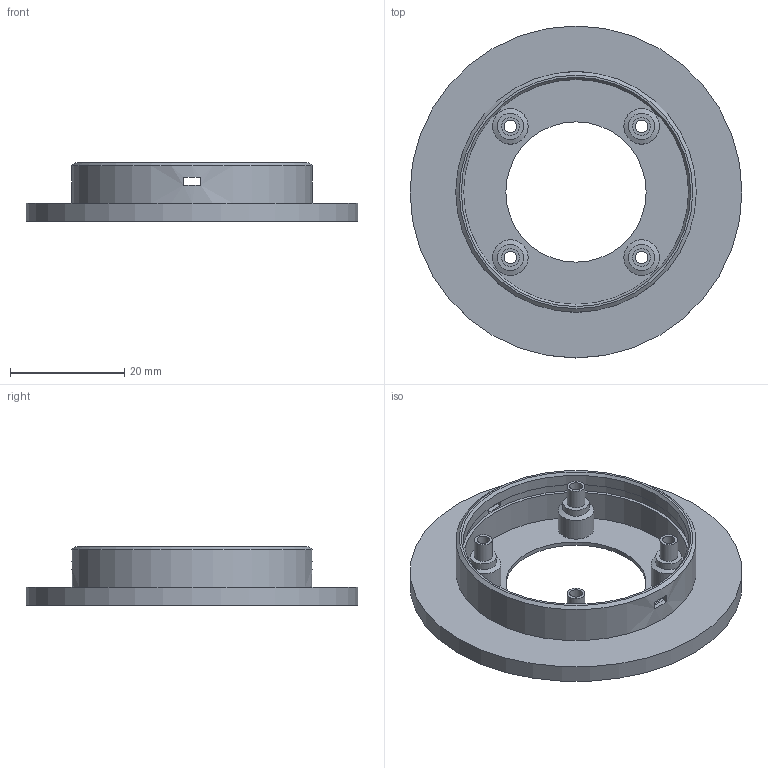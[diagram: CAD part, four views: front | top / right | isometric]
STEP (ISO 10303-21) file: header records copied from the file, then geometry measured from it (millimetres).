
FILE_DESCRIPTION(('Open CASCADE Model'),'2;1');
FILE_NAME('Open CASCADE Shape Model','2026-11-25T01:59:33',('Author'),( 'Open CASCADE'),'Open CASCADE STEP processor 7.9','Open CASCADE 7.9' ,'Unknown');
FILE_SCHEMA(('AUTOMOTIVE_DESIGN { 1 0 10303 214 1 1 1 1 }'));
Length unit declared in the file: millimetre
Products named in the file (1): Open CASCADE STEP translator 7.9 5
Bounding box: 58 x 58 x 10.2 mm (x, y, z)
Volume: 4029.6 mm3; surface area: 8679.3 mm2
Topology: 1 solids, 1 shells, 66 faces, 122 edges, 78 vertices
Faces by surface type: cylinder 30, plane 30, cone 6
Full cylindrical faces by diameter (mm): 2.2 x4, 3.1 x4, 3.2 x4, 4.6 x4, 6.2 x4, 24.5 x1, 39.3 x2, 40.4 x1, 41.7 x1, 42 x1, 43.55 x1, 54.95 x1, 56.4 x1, 58 x1
Entity records: 3370 total; most frequent: CARTESIAN_POINT 754, DIRECTION 512, ORIENTED_EDGE 244, PCURVE 244, DEFINITIONAL_REPRESENTATION 244, LINE 215, VECTOR 215, AXIS2_PLACEMENT_3D 137
